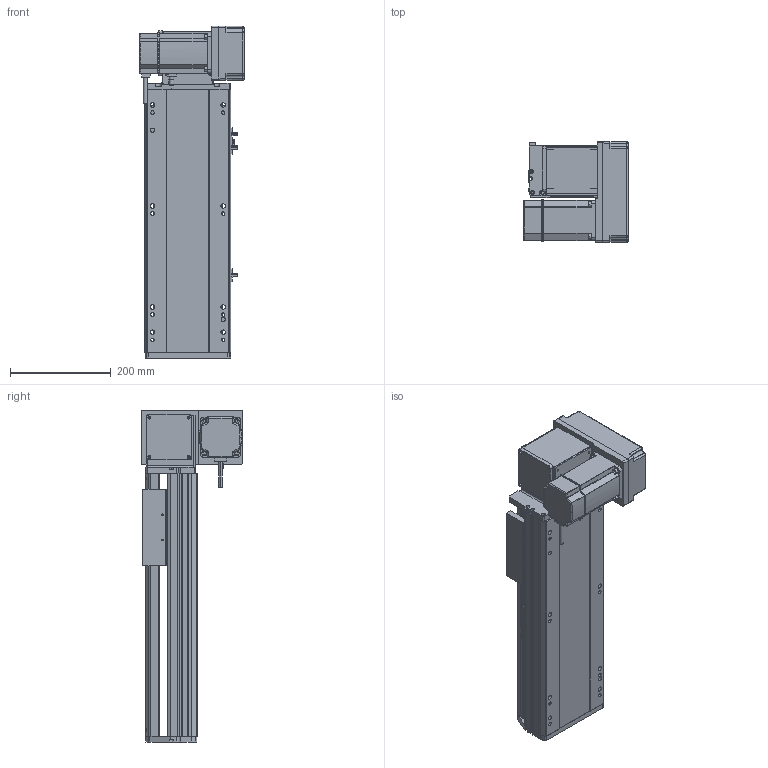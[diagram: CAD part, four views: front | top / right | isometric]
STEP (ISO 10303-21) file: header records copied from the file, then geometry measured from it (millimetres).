
FILE_DESCRIPTION (( 'STEP AP214' ), '1' );
FILE_NAME ('RTB17S-XX-250-RM-M75-C4.STEP', '2025-12-12T02:00:30', ( '' ), ( '' ), 'SwSTEP 2.0', 'SolidWorks 2018', '' );
FILE_SCHEMA (( 'AUTOMOTIVE_DESIGN' ));
Length unit declared in the file: millimetre
Products named in the file (15): RTB22S-GY-018P^RTB17S-RM-々湍釱蚾饜-750W_RTB17S-XX-XX-RM-M75-C4; RTB22S-GY-008-M75--萇儂啣^RTB17S-RM-々湍釱蚾饜-750W_RTB17S-XX-XX-RM-M75-C4; RTB17-R-011菁釱^RTB17S-XX-XX-RM-M75-C4; 750W萇儂^RTB17S-XX-XX-RM-M75-C4; RTB17S-XX-250-RM-M75-C4; RTB22S-GY-017P^RTB17S-RM-々湍釱蚾饜-750W_RTB17S-XX-XX-RM-M75-C4; RTB17S-賑釱^RTB17S-XX-XX-RM-M75-C4; RTB17S-RM-々湍釱蚾饜-750W^RTB17S-XX-XX-RM-M75-C4; RTH13-BL-012覜茼え俋离^RTB17S-賑釱_RTB17S-XX-XX-RM-M75-C4; EE672^RTB17S-XX-XX-RM-M75-C4; RTB17S-L-001-耜醱啣^RTB17S-XX-XX-RM-M75-C4; RTB22S-GY-005P^RTB17S-RM-々湍釱蚾饜-750W_RTB17S-XX-XX-RM-M75-C4; RTB17S-L-014-T20-P75--々湍釱^RTB17S-RM-々湍釱蚾饜-750W_RTB17S-XX-XX-RM-M75-C4; RTB17S-L-004-賑釱^RTB17S-賑釱_RTB17S-XX-XX-RM-M75-C4; RTB17S-L-007奻裔^RTB17S-XX-XX-RM-M75-C4
Assembly tree (17 placements, depth 3):
  RTB17S-XX-250-RM-M75-C4
    RTB17-R-011菁釱^RTB17S-XX-XX-RM-M75-C4
    EE672^RTB17S-XX-XX-RM-M75-C4  x3
    RTB17S-L-001-耜醱啣^RTB17S-XX-XX-RM-M75-C4
    RTB17S-賑釱^RTB17S-XX-XX-RM-M75-C4
      RTB17S-L-004-賑釱^RTB17S-賑釱_RTB17S-XX-XX-RM-M75-C4
      RTH13-BL-012覜茼え俋离^RTB17S-賑釱_RTB17S-XX-XX-RM-M75-C4
    RTB17S-L-007奻裔^RTB17S-XX-XX-RM-M75-C4
    750W萇儂^RTB17S-XX-XX-RM-M75-C4
    RTB17S-RM-々湍釱蚾饜-750W^RTB17S-XX-XX-RM-M75-C4
      RTB17S-L-014-T20-P75--々湍釱^RTB17S-RM-々湍釱蚾饜-750W_RTB17S-XX-XX-RM-M75-C4
      RTB22S-GY-005P^RTB17S-RM-々湍釱蚾饜-750W_RTB17S-XX-XX-RM-M75-C4
      RTB22S-GY-017P^RTB17S-RM-々湍釱蚾饜-750W_RTB17S-XX-XX-RM-M75-C4  x2
      RTB22S-GY-008-M75--萇儂啣^RTB17S-RM-々湍釱蚾饜-750W_RTB17S-XX-XX-RM-M75-C4
      RTB22S-GY-018P^RTB17S-RM-々湍釱蚾饜-750W_RTB17S-XX-XX-RM-M75-C4
Bounding box: 207.4 x 200 x 657.5 mm (x, y, z)
Volume: 7507527.7 mm3; surface area: 1151470.8 mm2
Topology: 17 solids, 17 shells, 2041 faces, 5620 edges, 3626 vertices
Faces by surface type: plane 964, cylinder 661, bspline 294, cone 110, sphere 8, torus 4
Entity records: 55798 total; most frequent: CARTESIAN_POINT 16284, ORIENTED_EDGE 8084, DIRECTION 7592, EDGE_CURVE 4042, AXIS2_PLACEMENT_3D 2646, VERTEX_POINT 2630, LINE 2300, VECTOR 2300
